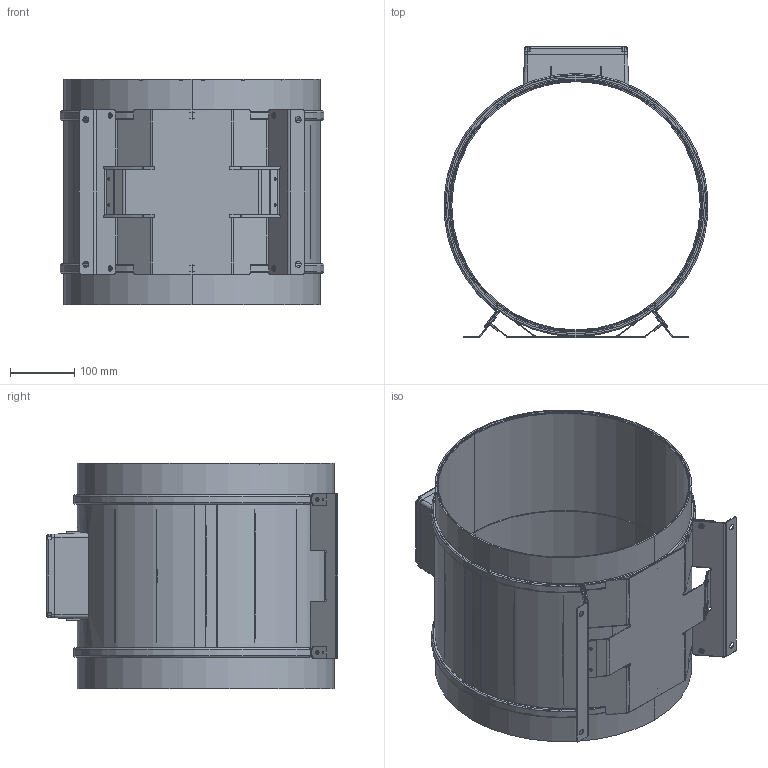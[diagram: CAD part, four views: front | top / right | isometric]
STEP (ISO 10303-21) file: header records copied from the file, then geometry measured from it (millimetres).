
FILE_DESCRIPTION (( 'STEP AP203' ), '1' );
FILE_NAME ('129165-02_EM400E4M01.STEP', '2015-03-02T08:18:32', ( '' ), ( '' ), 'SwSTEP 2.0', 'SolidWorks 2012', '' );
FILE_SCHEMA (( 'CONFIG_CONTROL_DESIGN' ));
Length unit declared in the file: millimetre
Products named in the file (1): 129165-02_EM400E4M01
Bounding box: 409.55 x 452.3 x 350 mm (x, y, z)
Surface area: 1201348.1 mm2 (no closed solid volume)
Topology: 0 solids, 13 shells, 618 faces, 2826 edges, 2126 vertices
Faces by surface type: cylinder 219, plane 208, torus 79, bspline 77, cone 35
Entity records: 36709 total; most frequent: CARTESIAN_POINT 15535, ORIENTED_EDGE 4031, DIRECTION 4028, EDGE_CURVE 2822, VERTEX_POINT 2126, LINE 1416, VECTOR 1416, AXIS2_PLACEMENT_3D 1306
